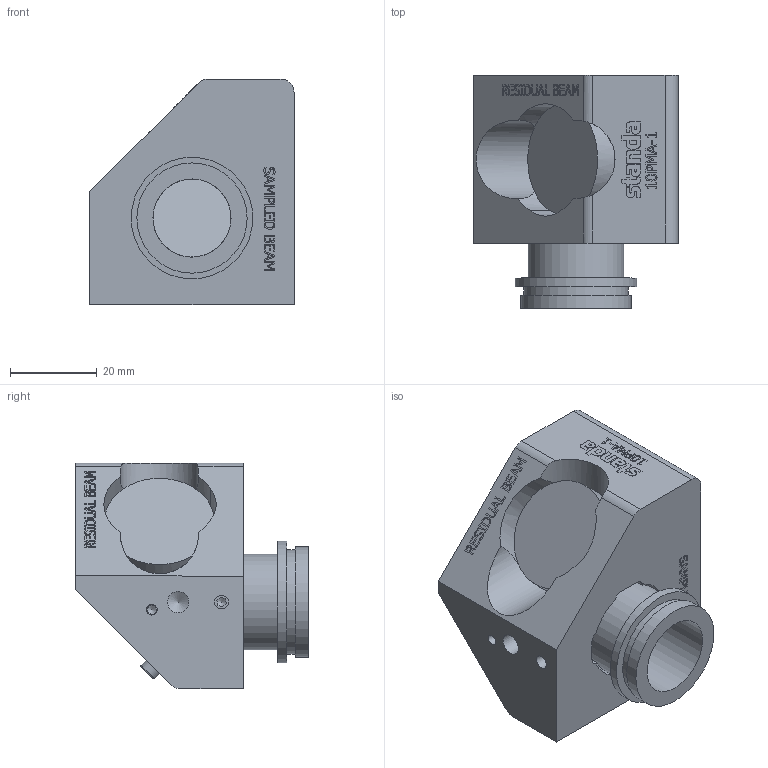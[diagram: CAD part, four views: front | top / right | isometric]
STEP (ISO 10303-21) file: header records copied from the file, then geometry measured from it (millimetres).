
FILE_DESCRIPTION(/* description */ (''),/* implementation_level */ '2;1');
FILE_NAME(/* name */ 'C:\Users\dsgn39.CENTRAS\Desktop\Internetui\10PMA-1\10PMA-1.stp',/* time_stamp */ '2019-01-16T13:12:14+02:00',/* author */ ('dsgn39'),/* organization */ (''),/* preprocessor_version */ 'ST-DEVELOPER v15.2',/* originating_system */ 'Autodesk Inventor 2014',/* authorisation */ '');
FILE_SCHEMA (('AUTOMOTIVE_DESIGN { 1 0 10303 214 3 1 1 }'));
Length unit declared in the file: millimetre
Products named in the file (3): Part7; Part9; Assembly2
Bounding box: 47 x 53.6 x 52 mm (x, y, z)
Volume: 52969.5 mm3; surface area: 19163.4 mm2
Topology: 2 solids, 5 shells, 795 faces, 2084 edges, 1384 vertices
Faces by surface type: plane 542, bspline 137, cylinder 90, cone 22, torus 4
Full cylindrical faces by diameter (mm): 1.5 x2, 2 x3, 2.459 x6, 2.5 x5, 3 x2, 3.2 x4, 4.5 x2, 4.9 x1, 4.917 x3, 18 x4, 21.4 x1, 21.5 x1, 22 x2, 24 x1, 24.536 x1, 25.4 x2, 25.8 x1, 28 x1
Entity records: 24992 total; most frequent: CARTESIAN_POINT 6547, ORIENTED_EDGE 3984, DIRECTION 3218, EDGE_CURVE 1990, LINE 1490, VECTOR 1490, VERTEX_POINT 1355, EDGE_LOOP 959
